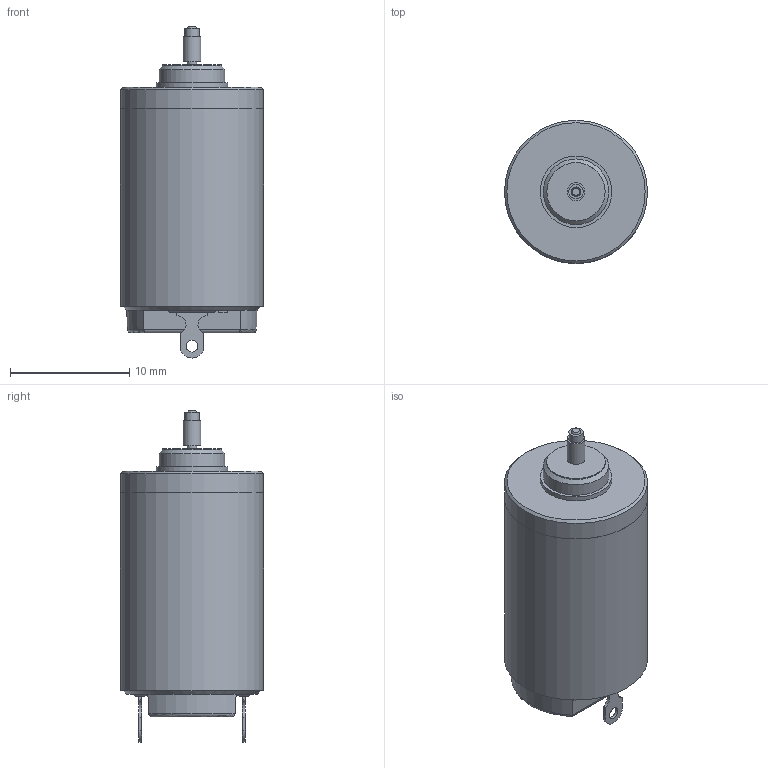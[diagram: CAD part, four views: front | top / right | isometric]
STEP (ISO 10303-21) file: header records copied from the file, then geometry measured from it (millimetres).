
FILE_DESCRIPTION(/* description */ (''),/* implementation_level */ '2;1');
FILE_NAME(/* name */ '1219N_G.stp',/* time_stamp */ '2013-10-18T14:45:58+02:00',/* author */ ('DR. FRITZ FAULHABER GmbH & Co. KG'),/* organization */ ('DR. FRITZ FAULHABER GmbH & Co. KG'),/* preprocessor_version */ 'ST-DEVELOPER v11',/* originating_system */ 'SIEMENS PLM Software NX 7.5',/* authorisation */ '');
FILE_SCHEMA (('AUTOMOTIVE_DESIGN { 1 0 10303 214 1 1 1 1 }'));
Length unit declared in the file: millimetre
Products named in the file (1): Alle
Bounding box: 12 x 12 x 27.85 mm (x, y, z)
Volume: 2303.1 mm3; surface area: 1050 mm2
Topology: 1 solids, 1 shells, 83 faces, 190 edges, 124 vertices
Faces by surface type: plane 55, cylinder 20, cone 6, torus 2
Full cylindrical faces by diameter (mm): 0.8 x1, 1 x2, 1.2 x1, 1.5 x1, 4.887 x1, 5.5 x1, 6 x1, 11.6 x1, 11.999 x1, 12 x2
Entity records: 2302 total; most frequent: CARTESIAN_POINT 456, DIRECTION 376, ORIENTED_EDGE 338, EDGE_CURVE 169, AXIS2_PLACEMENT_3D 131, VERTEX_POINT 119, EDGE_LOOP 118, LINE 114
